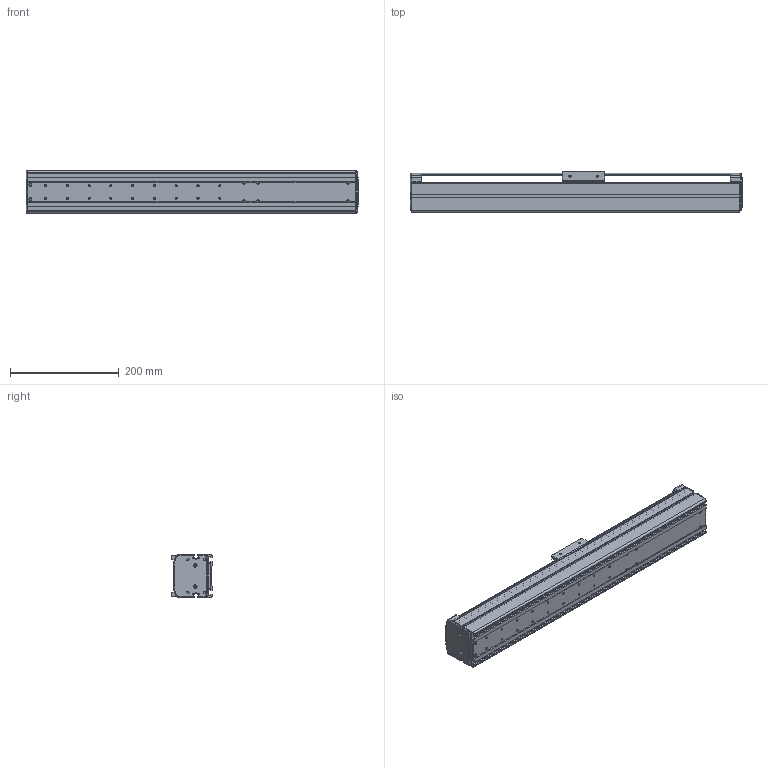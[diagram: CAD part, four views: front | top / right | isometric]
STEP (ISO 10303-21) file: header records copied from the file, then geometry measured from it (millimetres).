
FILE_DESCRIPTION((''),'2;1');
FILE_NAME('BE10E-ST-S_B-25_IGS_PRT','2017-06-17T',(' '),(''),'PRO/ENGINEER BY PARAMETRIC TECHNOLOGY CORPORATION, 2015030','PRO/ENGINEER BY PARAMETRIC TECHNOLOGY CORPORATION, 2015030','');
FILE_SCHEMA(('CONFIG_CONTROL_DESIGN'));
Length unit declared in the file: millimetre
Products named in the file (1): BE10E-ST-S_B-25_IGS_PRT
Bounding box: 610 x 75 x 78 mm (x, y, z)
Volume: 719682.3 mm3; surface area: 489517.2 mm2
Topology: 3 solids, 57 shells, 1095 faces, 2921 edges, 1887 vertices
Faces by surface type: cylinder 526, plane 416, torus 66, sphere 42, cone 38, bspline 7
Entity records: 35259 total; most frequent: CARTESIAN_POINT 7258, DIRECTION 6081, ORIENTED_EDGE 5592, EDGE_CURVE 2903, AXIS2_PLACEMENT_3D 2278, VERTEX_POINT 1887, VECTOR 1525, LINE 1525
